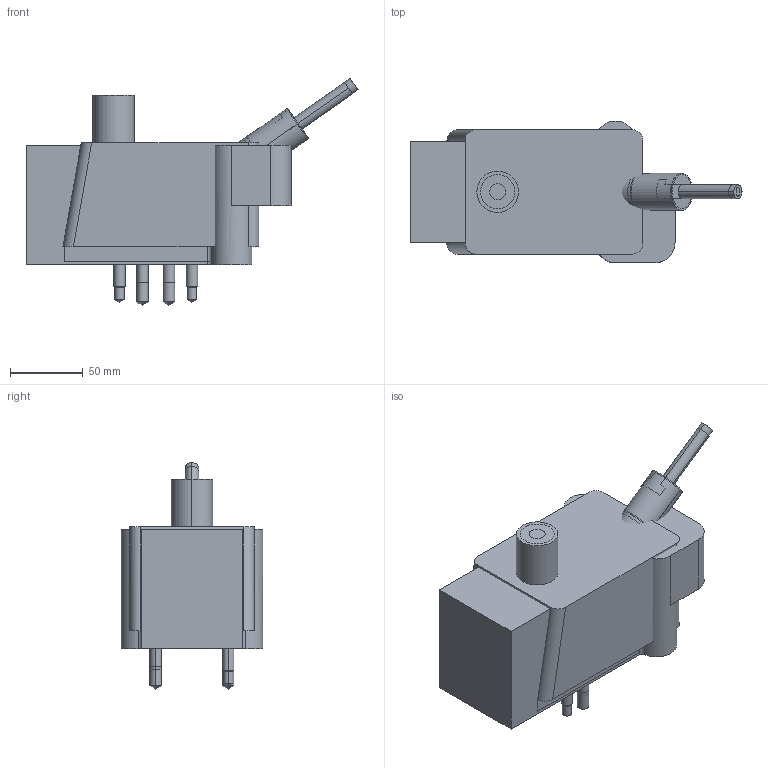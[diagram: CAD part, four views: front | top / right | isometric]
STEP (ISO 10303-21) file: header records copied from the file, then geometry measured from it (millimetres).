
FILE_DESCRIPTION((' '),'2;1');
FILE_NAME( 'EZ-35-S-L.stp', '2023-11-30T09:15:51', (' '), ('--- Datakit www.datakit.com---'), ' Datakit CrossCadWare V2020.4 Oct 21 2020', 'Export from SolidLink (Hexagon Production Software)', ' ');
FILE_SCHEMA(('AP242_MANAGED_MODEL_BASED_3D_ENGINEERING_MIM_LF { 1 0 10303 442 1 1 4 }'));
Length unit declared in the file: millimetre
Products named in the file (137): Workplanes; 1701283479; 1701205066; 1701204876; 1700493504; 1679437523; 1679437528; 1679437529; 1679437533; 1679437534; 1679437547; 1679437551; 1679437556; 1679437557; 1679437558; 1679437559; 1679437560; 1700504571; 1700842803; 1701355185; 1701355186; 1701355187; 1701355188; 1701355189; 1701355190; 1701355191; 1701355192; 1701355193; 1701355194; 1701355195; 1701355196; 1701355197; 1701355198; 1701355199; 1701355200; 1701355201; 1701355202; 1701355203; 1701355204; 1701355205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
Bounding box: 228.84 x 97.75 x 156.2 mm (x, y, z)
Volume: 2560373.3 mm3; surface area: 230171.6 mm2
Topology: 17 solids, 18 shells, 439 faces, 1276 edges, 1100 vertices
Faces by surface type: cylinder 178, plane 153, cone 96, sphere 6, torus 4, bspline 2
Entity records: 17902 total; most frequent: CARTESIAN_POINT 4607, DIRECTION 2660, ORIENTED_EDGE 2074, AXIS2_PLACEMENT_3D 1051, EDGE_CURVE 1043, VERTEX_POINT 670, VECTOR 558, LINE 558
